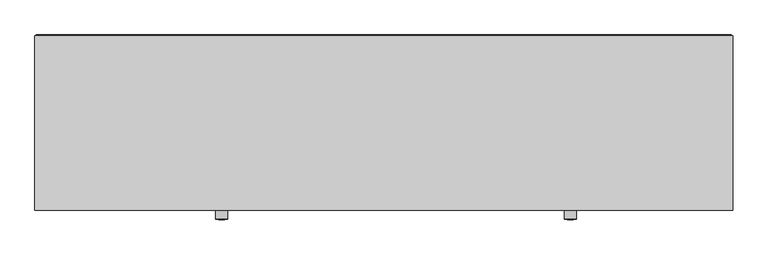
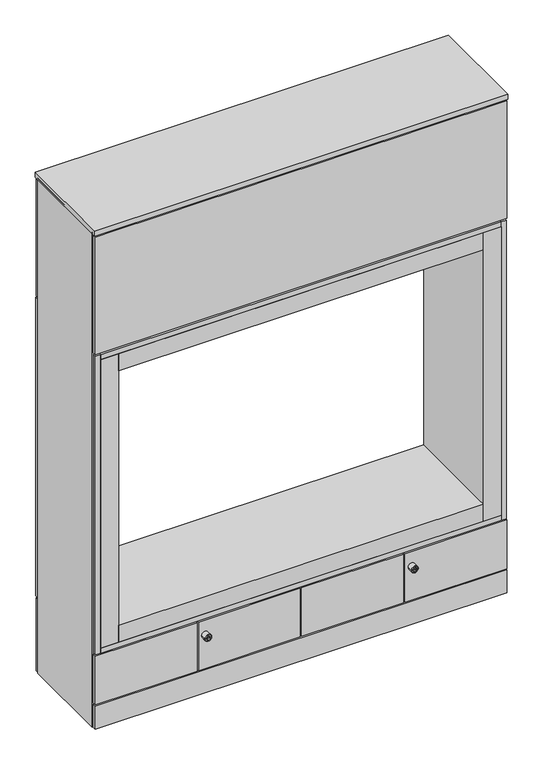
"""IFC4 building model written with IfcOpenShell, lengths in millimetres: furniture geometry, Furniture_Storage_Spacestor_SignatureStoragewall : Snugglestor Backless Double."""

from ifc_helpers import new_model, si_unit, point, frame, origin, origin_with_axes, place, context, project, spatial, polyline, circle_curve, ellipse_curve, trimmed, outline, extrude, source, transform, mapped, element, save
from ifc_brep_helpers import plane_surface, cylinder_surface, revolved_surface, advanced_brep


def furniture_7591eba8(model_context):
    return source(origin(), model_context, "Body", "SolidModel", [
        extrude(outline(polyline([(1996.5, -18.0), (3.5, -18.0), (3.5, 0.0), (1996.5, 0.0), (1996.5, -18.0)])), origin_with_axes(), (0.0, 0.0, 1.0), 118.0),
        extrude(outline(polyline([(2000.0, -20.5), (0.0, -20.5), (0.0, 479.5), (2000.0, 479.5), (2000.0, -20.5)])), frame((0.0, 0.0, 2525.0), z_axis=(0.0, 0.0, 1.0), x_axis=(1.0, 0.0, 0.0)), (0.0, 0.0, 1.0), 25.5),
        extrude(outline(polyline([(2000.0, 0.0), (1989.0, 0.0), (1989.0, 459.0), (2000.0, 459.0), (2000.0, 0.0)])), origin_with_axes(), (0.0, 0.0, 1.0), 2532.5),
        extrude(outline(polyline([(11.0, 0.0), (0.0, 0.0), (0.0, 459.0), (11.0, 459.0), (11.0, 0.0)])), origin_with_axes(), (0.0, 0.0, 1.0), 2532.5),
        extrude(outline(polyline([(1996.5, 459.0), (3.5, 459.0), (3.5, 477.0), (1996.5, 477.0), (1996.5, 459.0)])), frame((0.0, 0.0, 1917.0), z_axis=(0.0, 0.0, 1.0), x_axis=(1.0, 0.0, 0.0)), (0.0, 0.0, 1.0), 601.0),
        extrude(outline(polyline([(1996.5, -18.0), (3.5, -18.0), (3.5, 0.0), (1996.5, 0.0), (1996.5, -18.0)])), frame((0.0, 0.0, 1917.0), z_axis=(0.0, 0.0, 1.0), x_axis=(1.0, 0.0, 0.0)), (0.0, 0.0, 1.0), 601.0),
        extrude(outline(polyline([(1996.5, 459.0), (3.5, 459.0), (3.5, 477.0), (1996.5, 477.0), (1996.5, 459.0)])), origin_with_axes(), (0.0, 0.0, 1.0), 374.0),
        extrude(outline(polyline([(1989.0, 0.0), (11.0, 0.0), (11.0, 459.0), (1989.0, 459.0), (1989.0, 0.0)])), frame((0.0, 0.0, 1902.5), z_axis=(0.0, 0.0, 1.0), x_axis=(1.0, 0.0, 0.0)), (0.0, 0.0, 1.0), 22.0),
        extrude(outline(polyline([(1970.5, -18.0), (1883.5, -18.0), (1883.5, 482.0), (1970.5, 482.0), (1970.5, -18.0)])), frame((0.0, 0.0, 406.5), z_axis=(0.0, 0.0, 1.0), x_axis=(1.0, 0.0, 0.0)), (0.0, 0.0, 1.0), 1476.0),
        extrude(outline(polyline([(116.5, -18.0), (29.5, -18.0), (29.5, 482.0), (116.5, 482.0), (116.5, -18.0)])), frame((0.0, 0.0, 406.5), z_axis=(0.0, 0.0, 1.0), x_axis=(1.0, 0.0, 0.0)), (0.0, 0.0, 1.0), 1476.0),
        extrude(outline(polyline([(1883.5, -18.0), (116.5, -18.0), (116.5, 482.0), (1883.5, 482.0), (1883.5, -18.0)])), frame((0.0, 0.0, 406.5), z_axis=(0.0, 0.0, 1.0), x_axis=(1.0, 0.0, 0.0)), (0.0, 0.0, 1.0), 87.0),
        extrude(outline(polyline([(1883.5, -18.0), (116.5, -18.0), (116.5, 482.0), (1883.5, 482.0), (1883.5, -18.0)])), frame((0.0, 0.0, 1795.5), z_axis=(0.0, 0.0, 1.0), x_axis=(1.0, 0.0, 0.0)), (0.0, 0.0, 1.0), 87.0),
        extrude(outline(polyline([(1003.5, -18.0), (1003.5, 0.0), (1496.5, 0.0), (1496.5, -18.0), (1003.5, -18.0)])), frame((0.0, 0.0, 125.0), z_axis=(0.0, 0.0, 1.0), x_axis=(1.0, 0.0, 0.0)), (0.0, 0.0, 1.0), 249.0),
        extrude(outline(polyline([(1996.5, -18.0), (1503.5, -18.0), (1503.5, 0.0), (1996.5, 0.0), (1996.5, -18.0)])), frame((0.0, 0.0, 125.0), z_axis=(0.0, 0.0, 1.0), x_axis=(1.0, 0.0, 0.0)), (0.0, 0.0, 1.0), 249.0),
        advanced_brep(
        [(1552.0, -45.3116344, 299.0), (1518.0, -45.3116344, 299.0), (1518.0, -18.0, 299.0), (1552.0, -18.0, 299.0), (1535.0, -18.0, 299.0), (1543.9747319, -46.3150077, 299.0), (1526.0252681, -46.3150077, 299.0), (1519.0033734, -46.3150077, 299.0), (1550.9966266, -46.3150077, 299.0), (1543.9747319, -47.4703043, 299.0), (1526.0252681, -47.4703043, 299.0), (1539.8245152, -47.4703043, 299.0), (1539.8245152, -47.4703043, 297.6366562), (1530.1754848, -47.4703043, 297.6366562), (1530.1754848, -47.4703043, 299.0), (1530.1754848, -47.4703043, 300.3633438), (1539.8245152, -47.4703043, 300.3633438), (1530.1754848, -27.8604291, 297.6366562), (1539.8245152, -27.8604291, 297.6366562), (1539.8245152, -27.8604291, 300.3633438), (1530.1754848, -27.8604291, 300.3633438)],
        [
            (0, 1, circle_curve(frame((1535.0, -45.3116344, 299.0), z_axis=(0.0, 1.0, 0.0), x_axis=(-1.0, 0.0, 0.0)), 17.0)),
            (1, 2),
            (2, 3, circle_curve(frame((1535.0, -18.0, 299.0), z_axis=(0.0, -1.0, 0.0), x_axis=(-1.0, 0.0, 0.0)), 17.0)),
            (3, 0),
            (1, 0, circle_curve(frame((1535.0, -45.3116344, 299.0), z_axis=(0.0, 1.0, 0.0), x_axis=(-1.0, 0.0, 0.0)), 17.0)),
            (3, 2, circle_curve(frame((1535.0, -18.0, 299.0), z_axis=(0.0, -1.0, 0.0), x_axis=(-1.0, 0.0, 0.0)), 17.0)),
            (2, 4),
            (4, 3),
            (5, 6, circle_curve(frame((1535.0, -46.3150077, 299.0), z_axis=(0.0, 1.0, 0.0), x_axis=(-1.0, 0.0, 0.0)), 8.9747319)),
            (6, 7),
            (7, 8, circle_curve(frame((1535.0, -46.3150077, 299.0), z_axis=(0.0, -1.0, 0.0), x_axis=(-1.0, 0.0, 0.0)), 15.9966266)),
            (8, 5),
            (6, 5, circle_curve(frame((1535.0, -46.3150077, 299.0), z_axis=(0.0, 1.0, 0.0), x_axis=(-1.0, 0.0, 0.0)), 8.9747319)),
            (8, 7, circle_curve(frame((1535.0, -46.3150077, 299.0), z_axis=(0.0, -1.0, 0.0), x_axis=(-1.0, 0.0, 0.0)), 15.9966266)),
            (0, 8, circle_curve(frame((1550.9966266, -45.3116344, 299.0), z_axis=(0.0, 0.0, -1.0), x_axis=(1.0, 0.0, 0.0)), 1.0033734)),
            (7, 1, circle_curve(frame((1519.0033734, -45.3116344, 299.0), z_axis=(0.0, 0.0, -1.0), x_axis=(-1.0, 0.0, 0.0)), 1.0033734)),
            (5, 9),
            (9, 10, circle_curve(frame((1535.0, -47.4703043, 299.0), z_axis=(0.0, 1.0, 0.0), x_axis=(-1.0, 0.0, 0.0)), 8.9747319)),
            (10, 6),
            (10, 9, circle_curve(frame((1535.0, -47.4703043, 299.0), z_axis=(0.0, 1.0, 0.0), x_axis=(-1.0, 0.0, 0.0)), 8.9747319)),
            (9, 11),
            (11, 12),
            (12, 13),
            (13, 14),
            (14, 10),
            (14, 15),
            (15, 16),
            (16, 11),
            (17, 18),
            (18, 19),
            (19, 20),
            (20, 17),
            (17, 13),
            (12, 18),
            (16, 19),
            (15, 20),
        ],
        [
            cylinder_surface(frame((1535.0, -2627.0581012, 299.0), z_axis=(0.0, -1.0, 0.0), x_axis=(-1.0, 0.0, 0.0)), 17.0),
            plane_surface(frame((1535.0, -18.0, 299.0), z_axis=(0.0, 1.0, 0.0), x_axis=(-1.0, 0.0, 0.0))),
            plane_surface(frame((1535.0, -46.3150077, 299.0), z_axis=(0.0, -1.0, 0.0), x_axis=(-1.0, 0.0, 0.0))),
            revolved_surface(trimmed(ellipse_curve(frame((1519.0033734, -45.3116344, 299.0), z_axis=(0.0, 0.0, 1.0), x_axis=(-1.0, 0.0, 0.0)), 1.0033734, 1.0033734), [point((1518.0, -45.3116344, 299.0))], [point((1519.0033734, -46.3150077, 299.0))], True, "CARTESIAN"), (1535.0, -2627.0581012, 299.0), (0.0, -1.0, 0.0)),
            cylinder_surface(frame((1535.0, -2627.0581012, 299.0), z_axis=(0.0, -1.0, 0.0), x_axis=(-1.0, 0.0, 0.0)), 8.9747319),
            plane_surface(frame((1535.0, -47.4703043, 299.0), z_axis=(0.0, -1.0, 0.0), x_axis=(-1.0, 0.0, 0.0))),
            plane_surface(frame((1539.4565249, -27.8604291, 297.6366562), z_axis=(0.0, -1.0, 0.0), x_axis=(-1.0, 0.0, 0.0))),
            plane_surface(frame((1530.1754848, -49.2046383, 297.6366562), z_axis=(0.0, 0.0, 1.0), x_axis=(0.0, 1.0, 0.0))),
            plane_surface(frame((1539.8245152, -49.2046383, 297.6366562), z_axis=(-1.0, 0.0, 0.0), x_axis=(0.0, 1.0, 0.0))),
            plane_surface(frame((1539.8245152, -49.2046383, 300.3633438), z_axis=(0.0, 0.0, -1.0), x_axis=(0.0, 1.0, 0.0))),
            plane_surface(frame((1530.1754848, -49.2046383, 300.3633438), z_axis=(1.0, 0.0, 0.0), x_axis=(0.0, 1.0, 0.0))),
        ],
        [
            (0, [[1, 2, 3, 4]]),
            (0, [[-2, 5, -4, 6]]),
            (1, [[-3, 7, 8]]),
            (1, [[-6, -8, -7]]),
            (2, [[9, 10, 11, 12]]),
            (2, [[-10, 13, -12, 14]]),
            (3, [[-1, 15, -11, 16]]),
            (3, [[-5, -16, -14, -15]]),
            (4, [[-9, 17, 18, 19]]),
            (4, [[-13, -19, 20, -17]]),
            (5, [[-18, 21, 22, 23, 24, 25]]),
            (5, [[-20, -25, 26, 27, 28, -21]]),
            (6, [[29, 30, 31, 32]]),
            (7, [[-29, 33, -23, 34]]),
            (8, [[-30, -34, -22, -28, 35]]),
            (9, [[-31, -35, -27, 36]]),
            (10, [[-32, -36, -26, -24, -33]]),
        ],
    ),
        extrude(outline(polyline([(1989.0, 0.0), (11.0, 0.0), (11.0, 459.0), (1989.0, 459.0), (1989.0, 0.0)])), frame((0.0, 0.0, 110.5), z_axis=(0.0, 0.0, 1.0), x_axis=(1.0, 0.0, 0.0)), (0.0, 0.0, 1.0), 22.0),
        extrude(outline(polyline([(1989.0, 0.0), (11.0, 0.0), (11.0, 459.0), (1989.0, 459.0), (1989.0, 0.0)])), frame((0.0, 0.0, 2510.0), z_axis=(0.0, 0.0, 1.0), x_axis=(1.0, 0.0, 0.0)), (0.0, 0.0, 1.0), 22.0),
        extrude(outline(polyline([(1989.0, 0.0), (11.0, 0.0), (11.0, 459.0), (1989.0, 459.0), (1989.0, 0.0)])), frame((0.0, 0.0, 366.5), z_axis=(0.0, 0.0, 1.0), x_axis=(1.0, 0.0, 0.0)), (0.0, 0.0, 1.0), 22.0),
        extrude(outline(polyline([(1970.5, -18.0), (29.5, -18.0), (29.5, 482.0), (1970.5, 482.0), (1970.5, -18.0)])), frame((0.0, 0.0, 381.5), z_axis=(0.0, 0.0, 1.0), x_axis=(1.0, 0.0, 0.0)), (0.0, 0.0, 1.0), 25.0),
        extrude(outline(polyline([(29.5, -18.0), (4.5, -18.0), (4.5, 482.0), (29.5, 482.0), (29.5, -18.0)])), frame((0.0, 0.0, 381.0), z_axis=(0.0, 0.0, 1.0), x_axis=(1.0, 0.0, 0.0)), (0.0, 0.0, 1.0), 1527.0),
        extrude(outline(polyline([(1995.5, -18.0), (1970.5, -18.0), (1970.5, 482.0), (1995.5, 482.0), (1995.5, -18.0)])), frame((0.0, 0.0, 381.0), z_axis=(0.0, 0.0, 1.0), x_axis=(1.0, 0.0, 0.0)), (0.0, 0.0, 1.0), 1527.0),
        extrude(outline(polyline([(1970.5, -18.0), (29.5, -18.0), (29.5, 482.0), (1970.5, 482.0), (1970.5, -18.0)])), frame((0.0, 0.0, 1882.5), z_axis=(0.0, 0.0, 1.0), x_axis=(1.0, 0.0, 0.0)), (0.0, 0.0, 1.0), 25.0),
        extrude(outline(polyline([(3.5, -18.0), (3.5, 0.0), (496.5, 0.0), (496.5, -18.0), (3.5, -18.0)])), frame((0.0, 0.0, 125.0), z_axis=(0.0, 0.0, 1.0), x_axis=(1.0, 0.0, 0.0)), (0.0, 0.0, 1.0), 249.0),
        extrude(outline(polyline([(996.5, -18.0), (503.5, -18.0), (503.5, 0.0), (996.5, 0.0), (996.5, -18.0)])), frame((0.0, 0.0, 125.0), z_axis=(0.0, 0.0, 1.0), x_axis=(1.0, 0.0, 0.0)), (0.0, 0.0, 1.0), 249.0),
        advanced_brep(
        [(552.0, -45.3116344, 299.0), (518.0, -45.3116344, 299.0), (518.0, -18.0, 299.0), (552.0, -18.0, 299.0), (535.0, -18.0, 299.0), (543.9747319, -46.3150077, 299.0), (526.0252681, -46.3150077, 299.0), (519.0033734, -46.3150077, 299.0), (550.9966266, -46.3150077, 299.0), (543.9747319, -47.4703043, 299.0), (526.0252681, -47.4703043, 299.0), (539.8245152, -47.4703043, 299.0), (539.8245152, -47.4703043, 297.6366562), (530.1754848, -47.4703043, 297.6366562), (530.1754848, -47.4703043, 299.0), (530.1754848, -47.4703043, 300.3633438), (539.8245152, -47.4703043, 300.3633438), (530.1754848, -27.8604291, 297.6366562), (539.8245152, -27.8604291, 297.6366562), (539.8245152, -27.8604291, 300.3633438), (530.1754848, -27.8604291, 300.3633438)],
        [
            (0, 1, circle_curve(frame((535.0, -45.3116344, 299.0), z_axis=(0.0, 1.0, 0.0), x_axis=(-1.0, 0.0, 0.0)), 17.0)),
            (1, 2),
            (2, 3, circle_curve(frame((535.0, -18.0, 299.0), z_axis=(0.0, -1.0, 0.0), x_axis=(-1.0, 0.0, 0.0)), 17.0)),
            (3, 0),
            (1, 0, circle_curve(frame((535.0, -45.3116344, 299.0), z_axis=(0.0, 1.0, 0.0), x_axis=(-1.0, 0.0, 0.0)), 17.0)),
            (3, 2, circle_curve(frame((535.0, -18.0, 299.0), z_axis=(0.0, -1.0, 0.0), x_axis=(-1.0, 0.0, 0.0)), 17.0)),
            (2, 4),
            (4, 3),
            (5, 6, circle_curve(frame((535.0, -46.3150077, 299.0), z_axis=(0.0, 1.0, 0.0), x_axis=(-1.0, 0.0, 0.0)), 8.9747319)),
            (6, 7),
            (7, 8, circle_curve(frame((535.0, -46.3150077, 299.0), z_axis=(0.0, -1.0, 0.0), x_axis=(-1.0, 0.0, 0.0)), 15.9966266)),
            (8, 5),
            (6, 5, circle_curve(frame((535.0, -46.3150077, 299.0), z_axis=(0.0, 1.0, 0.0), x_axis=(-1.0, 0.0, 0.0)), 8.9747319)),
            (8, 7, circle_curve(frame((535.0, -46.3150077, 299.0), z_axis=(0.0, -1.0, 0.0), x_axis=(-1.0, 0.0, 0.0)), 15.9966266)),
            (0, 8, circle_curve(frame((550.9966266, -45.3116344, 299.0), z_axis=(0.0, 0.0, -1.0), x_axis=(1.0, 0.0, 0.0)), 1.0033734)),
            (7, 1, circle_curve(frame((519.0033734, -45.3116344, 299.0), z_axis=(0.0, 0.0, -1.0), x_axis=(-1.0, 0.0, 0.0)), 1.0033734)),
            (5, 9),
            (9, 10, circle_curve(frame((535.0, -47.4703043, 299.0), z_axis=(0.0, 1.0, 0.0), x_axis=(-1.0, 0.0, 0.0)), 8.9747319)),
            (10, 6),
            (10, 9, circle_curve(frame((535.0, -47.4703043, 299.0), z_axis=(0.0, 1.0, 0.0), x_axis=(-1.0, 0.0, 0.0)), 8.9747319)),
            (9, 11),
            (11, 12),
            (12, 13),
            (13, 14),
            (14, 10),
            (14, 15),
            (15, 16),
            (16, 11),
            (17, 18),
            (18, 19),
            (19, 20),
            (20, 17),
            (17, 13),
            (12, 18),
            (16, 19),
            (15, 20),
        ],
        [
            cylinder_surface(frame((535.0, -2627.0581012, 299.0), z_axis=(0.0, -1.0, 0.0), x_axis=(-1.0, 0.0, 0.0)), 17.0),
            plane_surface(frame((535.0, -18.0, 299.0), z_axis=(0.0, 1.0, 0.0), x_axis=(-1.0, 0.0, 0.0))),
            plane_surface(frame((535.0, -46.3150077, 299.0), z_axis=(0.0, -1.0, 0.0), x_axis=(-1.0, 0.0, 0.0))),
            revolved_surface(trimmed(ellipse_curve(frame((519.0033734, -45.3116344, 299.0), z_axis=(0.0, 0.0, 1.0), x_axis=(-1.0, 0.0, 0.0)), 1.0033734, 1.0033734), [point((518.0, -45.3116344, 299.0))], [point((519.0033734, -46.3150077, 299.0))], True, "CARTESIAN"), (535.0, -2627.0581012, 299.0), (0.0, -1.0, 0.0)),
            cylinder_surface(frame((535.0, -2627.0581012, 299.0), z_axis=(0.0, -1.0, 0.0), x_axis=(-1.0, 0.0, 0.0)), 8.9747319),
            plane_surface(frame((535.0, -47.4703043, 299.0), z_axis=(0.0, -1.0, 0.0), x_axis=(-1.0, 0.0, 0.0))),
            plane_surface(frame((539.4565249, -27.8604291, 297.6366562), z_axis=(0.0, -1.0, 0.0), x_axis=(-1.0, 0.0, 0.0))),
            plane_surface(frame((530.1754848, -49.2046383, 297.6366562), z_axis=(0.0, 0.0, 1.0), x_axis=(0.0, 1.0, 0.0))),
            plane_surface(frame((539.8245152, -49.2046383, 297.6366562), z_axis=(-1.0, 0.0, 0.0), x_axis=(0.0, 1.0, 0.0))),
            plane_surface(frame((539.8245152, -49.2046383, 300.3633438), z_axis=(0.0, 0.0, -1.0), x_axis=(0.0, 1.0, 0.0))),
            plane_surface(frame((530.1754848, -49.2046383, 300.3633438), z_axis=(1.0, 0.0, 0.0), x_axis=(0.0, 1.0, 0.0))),
        ],
        [
            (0, [[1, 2, 3, 4]]),
            (0, [[-2, 5, -4, 6]]),
            (1, [[-3, 7, 8]]),
            (1, [[-6, -8, -7]]),
            (2, [[9, 10, 11, 12]]),
            (2, [[-10, 13, -12, 14]]),
            (3, [[-1, 15, -11, 16]]),
            (3, [[-5, -16, -14, -15]]),
            (4, [[-9, 17, 18, 19]]),
            (4, [[-13, -19, 20, -17]]),
            (5, [[-18, 21, 22, 23, 24, 25]]),
            (5, [[-20, -25, 26, 27, 28, -21]]),
            (6, [[29, 30, 31, 32]]),
            (7, [[-29, 33, -23, 34]]),
            (8, [[-30, -34, -22, -28, 35]]),
            (9, [[-31, -35, -27, 36]]),
            (10, [[-32, -36, -26, -24, -33]]),
        ],
    ),
    ])


if __name__ == "__main__":
    model = new_model("IFC4")
    model_context = context("Model", 3, world=origin())
    ifc_project = project(units=[si_unit("LENGTHUNIT", "METRE", prefix="MILLI")], contexts=[model_context])
    site = spatial("IfcSite", under=ifc_project)
    building = spatial("IfcBuilding", under=site)
    placement = place(None, origin())
    furniture_shape = furniture_7591eba8(model_context)
    element("IfcFurniture", 1, ObjectType="Furniture_Storage_Spacestor_SignatureStoragewall : Snugglestor Backless Double", at=placement, inside=building, context=model_context, shape_type="MappedRepresentation", body=[
        mapped(furniture_shape, transform((0.0, 0.0, 0.0), x_axis=(1.0, 0.0, 0.0), y_axis=(0.0, 1.0, 0.0), z_axis=(0.0, 0.0, 1.0))),
    ])
    save(model, "model.ifc")
